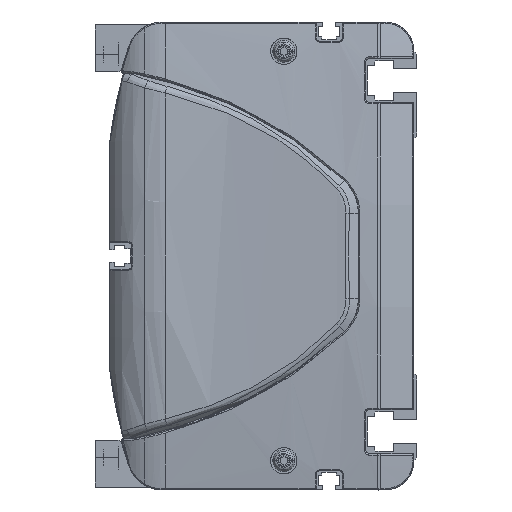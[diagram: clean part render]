
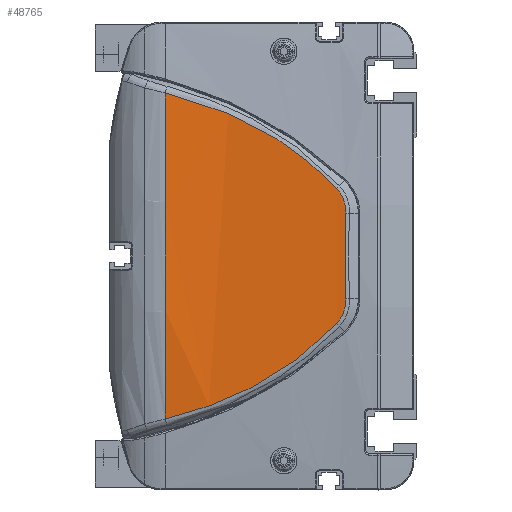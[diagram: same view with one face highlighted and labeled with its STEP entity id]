
A CAD part, left-side view. The second image highlights one B-rep face of the part: STEP entity #48765.
In plain terms, the highlighted cylindrical face has radius 600 mm (diameter 1200 mm), a partial arc.
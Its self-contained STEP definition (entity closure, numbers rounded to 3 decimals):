
#43794=CARTESIAN_POINT('',(-12.406,86.,
55.736));
#43795=CARTESIAN_POINT('',(-12.529,80.495,
54.41));
#43796=CARTESIAN_POINT('',(-12.828,69.636,
51.114));
#43797=CARTESIAN_POINT('',(-13.389,54.079,
44.179));
#43798=CARTESIAN_POINT('',(-14.01,39.709,
34.979));
#43799=CARTESIAN_POINT('',(-14.395,31.353,
27.243));
#43800=CARTESIAN_POINT('',(-14.555,27.451,
23.113));
#43802=CARTESIAN_POINT('',(-14.555,27.451,
23.113));
#43803=CARTESIAN_POINT('',(-14.641,25.336,
20.875));
#43804=CARTESIAN_POINT('',(-14.745,24.202,
17.745));
#43805=CARTESIAN_POINT('',(-14.821,24.351,
14.67));
#43807=CARTESIAN_POINT('',(-14.821,24.351,
14.67));
#43808=CARTESIAN_POINT('',(-14.9,24.51,
11.413));
#43809=CARTESIAN_POINT('',(-15.007,24.721,
4.895));
#43810=CARTESIAN_POINT('',(-15.007,24.721,
-4.895));
#43811=CARTESIAN_POINT('',(-14.9,24.51,
-11.413));
#43812=CARTESIAN_POINT('',(-14.821,24.351,
-14.67));
#43814=CARTESIAN_POINT('',(-14.821,24.351,
-14.67));
#43815=CARTESIAN_POINT('',(-14.745,24.202,
-17.745));
#43816=CARTESIAN_POINT('',(-14.641,25.337,
-20.876));
#43817=CARTESIAN_POINT('',(-14.555,27.451,
-23.113));
#43819=CARTESIAN_POINT('',(-14.555,27.451,
-23.113));
#43820=CARTESIAN_POINT('',(-14.395,31.353,
-27.243));
#43821=CARTESIAN_POINT('',(-14.01,39.709,
-34.979));
#43822=CARTESIAN_POINT('',(-13.389,54.079,
-44.179));
#43823=CARTESIAN_POINT('',(-12.828,69.636,
-51.114));
#43824=CARTESIAN_POINT('',(-12.529,80.495,
-54.41));
#43825=CARTESIAN_POINT('',(-12.406,86.,
-55.736));
#43827=CARTESIAN_POINT('',(585.,86.,0.));
#43828=DIRECTION('',(0.,1.,0.));
#43829=DIRECTION('',(-0.996,0.,-0.093));
#43830=AXIS2_PLACEMENT_3D('',#43827,#43828,#43829);
#43843=CARTESIAN_POINT('',(-12.406,86.,
55.736));
#44353=VERTEX_POINT('',#43843);
#44354=CARTESIAN_POINT('',(-12.406,86.,
-55.736));
#44355=VERTEX_POINT('',#44354);
#44407=VERTEX_POINT('',#43800);
#44408=VERTEX_POINT('',#43805);
#44409=VERTEX_POINT('',#43812);
#44410=VERTEX_POINT('',#43817);
#48747=CARTESIAN_POINT('',(585.,87.45,0.));
#48748=DIRECTION('',(0.,-1.,0.));
#48749=DIRECTION('',(0.,0.,-1.));
#48750=AXIS2_PLACEMENT_3D('',#48747,#48748,#48749);
#48751=CYLINDRICAL_SURFACE('',#48750,600.);
#48753=ORIENTED_EDGE('',*,*,#48752,.T.);
#48755=ORIENTED_EDGE('',*,*,#48754,.T.);
#48756=ORIENTED_EDGE('',*,*,#48737,.T.);
#48758=ORIENTED_EDGE('',*,*,#48757,.T.);
#48760=ORIENTED_EDGE('',*,*,#48759,.T.);
#48762=ORIENTED_EDGE('',*,*,#48761,.T.);
#48763=EDGE_LOOP('',(#48753,#48755,#48756,#48758,#48760,#48762));
#48764=FACE_OUTER_BOUND('',#48763,.F.);
#48765=ADVANCED_FACE('',(#48764),#48751,.T.);
#43801=B_SPLINE_CURVE_WITH_KNOTS('',3,(#43794,#43795,#43796,#43797,#43798,
#43799,#43800),.UNSPECIFIED.,.F.,.F.,(4,1,1,1,4),(0.,0.25,0.5,0.75,
1.),.UNSPECIFIED.);
#43806=B_SPLINE_CURVE_WITH_KNOTS('',3,(#43802,#43803,#43804,#43805),
.UNSPECIFIED.,.F.,.F.,(4,4),(0.,1.),.UNSPECIFIED.);
#43813=B_SPLINE_CURVE_WITH_KNOTS('',3,(#43807,#43808,#43809,#43810,#43811,
#43812),.UNSPECIFIED.,.F.,.F.,(4,1,1,4),(0.,0.333,
0.667,1.),.UNSPECIFIED.);
#43818=B_SPLINE_CURVE_WITH_KNOTS('',3,(#43814,#43815,#43816,#43817),
.UNSPECIFIED.,.F.,.F.,(4,4),(0.,1.),.UNSPECIFIED.);
#43826=B_SPLINE_CURVE_WITH_KNOTS('',3,(#43819,#43820,#43821,#43822,#43823,
#43824,#43825),.UNSPECIFIED.,.F.,.F.,(4,1,1,1,4),(0.,0.25,0.5,0.75,
1.),.UNSPECIFIED.);
#43831=CIRCLE('',#43830,600.);
#48737=EDGE_CURVE('',#44408,#44409,#43813,.T.);
#48752=EDGE_CURVE('',#44353,#44407,#43801,.T.);
#48754=EDGE_CURVE('',#44407,#44408,#43806,.T.);
#48757=EDGE_CURVE('',#44409,#44410,#43818,.T.);
#48759=EDGE_CURVE('',#44410,#44355,#43826,.T.);
#48761=EDGE_CURVE('',#44355,#44353,#43831,.T.);
